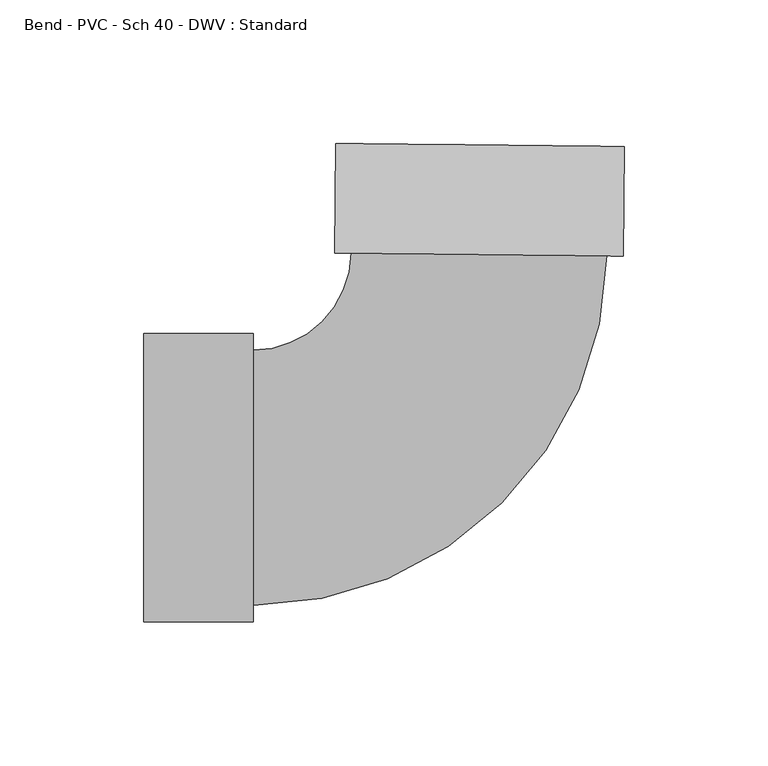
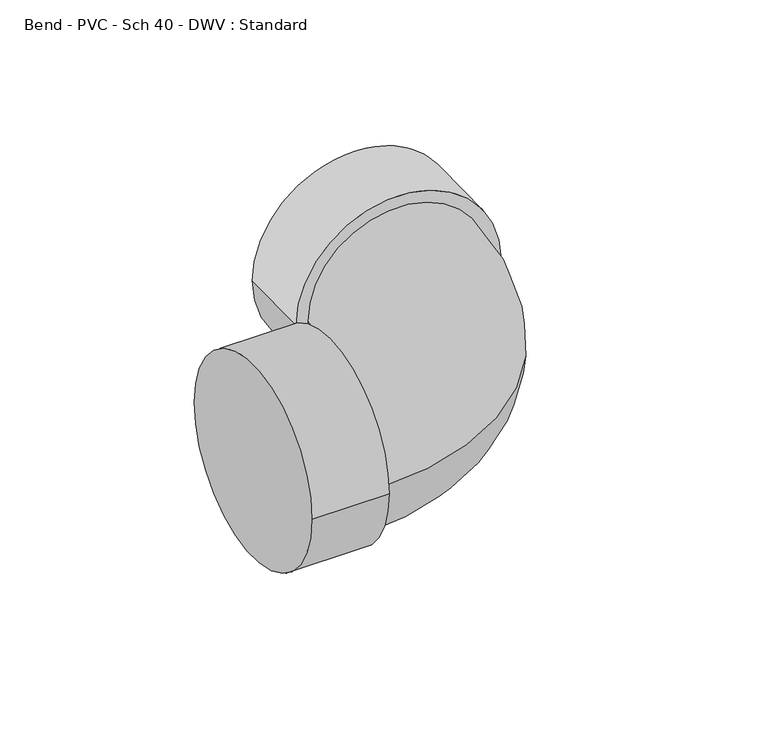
"""IFC4 building model written with IfcOpenShell, lengths in millimetres: pipe fitting geometry, Bend - PVC - Sch 40 - DWV : Standard."""

from ifc_helpers import new_model, si_unit, point, frame, origin, place, context, project, spatial, circle_curve, ellipse_curve, trimmed, source, transform, mapped, element, save
from ifc_brep_helpers import plane_surface, cylinder_surface, revolved_surface, advanced_brep


def bend_pvc_sch_40_dwv_standard_e97a4265(model_context):
    return source(origin(), model_context, "Body", "AdvancedBrep", [
        advanced_brep(
        [(-115.9002, -50.2666, 0.0), (-115.9002, 50.2666, 0.0), (-77.8002, -50.2666, 0.0), (-77.8002, 50.2666, 0.0), (-77.8002, -44.45, 0.0), (-77.8002, 44.45, 0.0), (-43.6110465, 78.2735603, 0.0), (45.2838162, 77.317848, 0.0), (51.1000801, 77.2553171, 0.0), (-49.4273104, 78.3360912, 0.0), (51.5096711, 115.3531154, 0.0), (-49.0177194, 116.4338895, 0.0)],
        [
            (0, 1, circle_curve(frame((-115.9002, 0.0, 0.0), z_axis=(-1.0, 0.0, 0.0), x_axis=(0.0, 1.0, 0.0)), 50.2666)),
            (1, 0, circle_curve(frame((-115.9002, 0.0, 0.0), z_axis=(-1.0, 0.0, 0.0), x_axis=(0.0, 1.0, 0.0)), 50.2666)),
            (2, 3, circle_curve(frame((-77.8002, 0.0, 0.0), z_axis=(1.0, 0.0, 0.0), x_axis=(0.0, 1.0, 0.0)), 50.2666)),
            (3, 2, circle_curve(frame((-77.8002, 0.0, 0.0), z_axis=(1.0, 0.0, 0.0), x_axis=(0.0, 1.0, 0.0)), 50.2666)),
            (4, 5, circle_curve(frame((-77.8002, 0.0, 0.0), z_axis=(-1.0, 0.0, 0.0), x_axis=(0.0, 1.0, 0.0)), 44.45)),
            (5, 4, circle_curve(frame((-77.8002, 0.0, 0.0), z_axis=(-1.0, 0.0, 0.0), x_axis=(0.0, 1.0, 0.0)), 44.45)),
            (0, 2),
            (3, 1),
            (6, 5, circle_curve(frame((-77.8002, 78.6411293, 0.0), z_axis=(0.0, 0.0, -1.0), x_axis=(0.0, -1.0, 0.0)), 34.1911293)),
            (4, 7, circle_curve(frame((-77.8002, 78.6411293, 0.0), z_axis=(0.0, 0.0, 1.0), x_axis=(0.0, -1.0, 0.0)), 123.0911293)),
            (7, 6, circle_curve(frame((0.8363848, 77.7957041, 0.0), z_axis=(-0.010750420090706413, -0.9999422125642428, 0.0), x_axis=(-0.9999422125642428, 0.010750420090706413, 0.0)), 44.45)),
            (6, 7, circle_curve(frame((0.8363848, 77.7957041, 0.0), z_axis=(-0.010750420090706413, -0.9999422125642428, 0.0), x_axis=(-0.9999422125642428, 0.010750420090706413, 0.0)), 44.45)),
            (8, 9, circle_curve(frame((0.8363848, 77.7957041, 0.0), z_axis=(-0.010750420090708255, -0.9999422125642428, 0.0), x_axis=(-0.9999422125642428, 0.010750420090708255, 0.0)), 50.2666)),
            (9, 8, circle_curve(frame((0.8363848, 77.7957041, 0.0), z_axis=(-0.010750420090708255, -0.9999422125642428, 0.0), x_axis=(-0.9999422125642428, 0.010750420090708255, 0.0)), 50.2666)),
            (10, 11, circle_curve(frame((1.2459758, 115.8935024, 0.0), z_axis=(0.010750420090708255, 0.9999422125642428, 0.0), x_axis=(-0.9999422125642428, 0.010750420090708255, 0.0)), 50.2666)),
            (11, 10, circle_curve(frame((1.2459758, 115.8935024, 0.0), z_axis=(0.010750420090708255, 0.9999422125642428, 0.0), x_axis=(-0.9999422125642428, 0.010750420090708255, 0.0)), 50.2666)),
            (8, 10),
            (11, 9),
        ],
        [
            plane_surface(frame((-115.9002, 0.0, 0.0), z_axis=(-1.0, 0.0, 0.0), x_axis=(0.0, 0.0, 1.0))),
            plane_surface(frame((-77.8002, 0.0, 0.0), z_axis=(1.0, 0.0, 0.0), x_axis=(0.0, 0.0, 1.0))),
            cylinder_surface(frame((-115.9002, 0.0, 0.0), z_axis=(-1.0, 0.0, 0.0), x_axis=(0.0, 1.0, 0.0)), 50.2666),
            revolved_surface(trimmed(ellipse_curve(frame((-77.8002, 0.0, 0.0), z_axis=(-1.0, 0.0, 0.0), x_axis=(0.0, 1.0, 0.0)), 44.45, 44.45), [point((-77.8002, -44.45, 0.0))], [point((-77.8002, 44.45, 0.0))], True, "CARTESIAN"), (-77.8002, 78.6411293, 0.0), (0.0, 0.0, 1.0)),
            revolved_surface(trimmed(ellipse_curve(frame((-77.8002, 0.0, 0.0), z_axis=(-1.0, 0.0, 0.0), x_axis=(0.0, 1.0, 0.0)), 44.45, 44.45), [point((-77.8002, 44.45, 0.0))], [point((-77.8002, -44.45, 0.0))], True, "CARTESIAN"), (-77.8002, 78.6411293, 0.0), (0.0, 0.0, 1.0)),
            plane_surface(frame((0.8363848, 77.7957041, 0.0), z_axis=(-0.010750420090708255, -0.9999422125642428, 0.0), x_axis=(0.0, 0.0, 1.0))),
            plane_surface(frame((1.2459758, 115.8935024, 0.0), z_axis=(0.010750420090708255, 0.9999422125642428, 0.0), x_axis=(0.0, 0.0, 1.0))),
            cylinder_surface(frame((0.8363848, 77.7957041, 0.0), z_axis=(-0.010750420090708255, -0.9999422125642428, 0.0), x_axis=(-0.9999422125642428, 0.010750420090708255, 0.0)), 50.2666),
        ],
        [
            (0, [[1, 2]]),
            (1, [[3, 4], [5, 6]]),
            (2, [[-1, 7, -4, 8]]),
            (2, [[-2, -8, -3, -7]]),
            (3, [[9, -5, 10, 11]]),
            (4, [[-9, 12, -10, -6]]),
            (5, [[13, 14], [-11, -12]]),
            (6, [[15, 16]]),
            (7, [[-13, 17, -16, 18]]),
            (7, [[-14, -18, -15, -17]]),
        ],
    ),
    ])


if __name__ == "__main__":
    model = new_model("IFC4")
    model_context = context("Model", 3, world=origin())
    ifc_project = project(units=[si_unit("LENGTHUNIT", "METRE", prefix="MILLI")], contexts=[model_context])
    site = spatial("IfcSite", under=ifc_project)
    building = spatial("IfcBuilding", under=site)
    placement = place(None, origin())
    bend_pvc_sch_40_dwv_standard_shape = bend_pvc_sch_40_dwv_standard_e97a4265(model_context)
    element("IfcPipeFitting", 1, ObjectType="Bend - PVC - Sch 40 - DWV : Standard", at=placement, inside=building, context=model_context, shape_type="MappedRepresentation", body=[
        mapped(bend_pvc_sch_40_dwv_standard_shape, transform((0.0, 0.0, 0.0), x_axis=(1.0, 0.0, 0.0), y_axis=(0.0, 1.0, 0.0), z_axis=(0.0, 0.0, 1.0))),
    ])
    save(model, "model.ifc")
